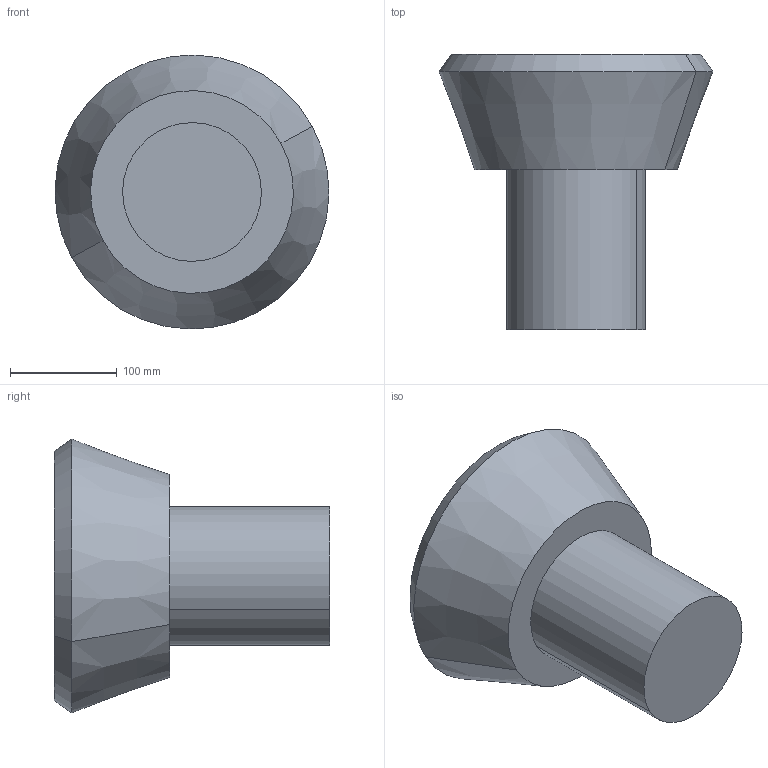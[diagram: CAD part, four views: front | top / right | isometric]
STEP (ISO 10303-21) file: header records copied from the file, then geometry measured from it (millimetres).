
FILE_DESCRIPTION(('CATIA V5 STEP Exchange'),'2;1');
FILE_NAME('C:\_Andres\UNIVERSIDAD\IQS\ASIGNATURAS\DAO\EXF\EXF-15161c\1original\Elvira_Arias_Ej09-optimiza_v5.stp','2016-03-04T21:55:27+00:00',('none'),('none'),'CATIA Version 5 Release 20 SP 1 (IN-10)','CATIA V5 STEP AP203','none');
FILE_SCHEMA(('CONFIG_CONTROL_DESIGN'));
Length unit declared in the file: millimetre
Products named in the file (1): Elvira_Arias_Ej09-optimiza_v5
Bounding box: 256.67 x 258.06 x 256.67 mm (x, y, z)
Volume: 6366153.1 mm3; surface area: 220818.2 mm2
Topology: 1 solids, 2 shells, 13 faces, 22 edges, 14 vertices
Faces by surface type: plane 5, cylinder 4, cone 4
Entity records: 324 total; most frequent: CARTESIAN_POINT 47, ORIENTED_EDGE 44, DIRECTION 42, AXIS2_PLACEMENT_3D 25, EDGE_CURVE 22, CIRCLE 14, EDGE_LOOP 14, VERTEX_POINT 14
